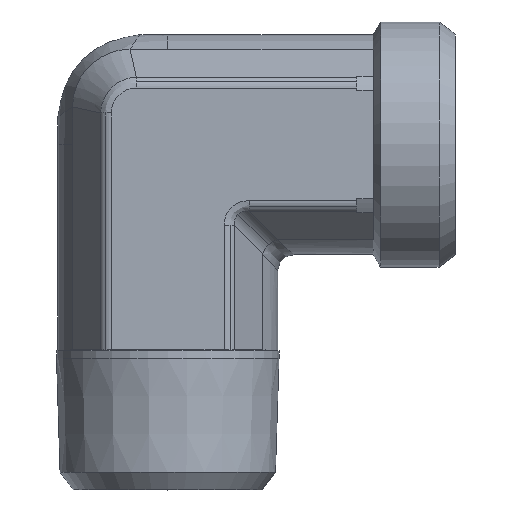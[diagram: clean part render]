
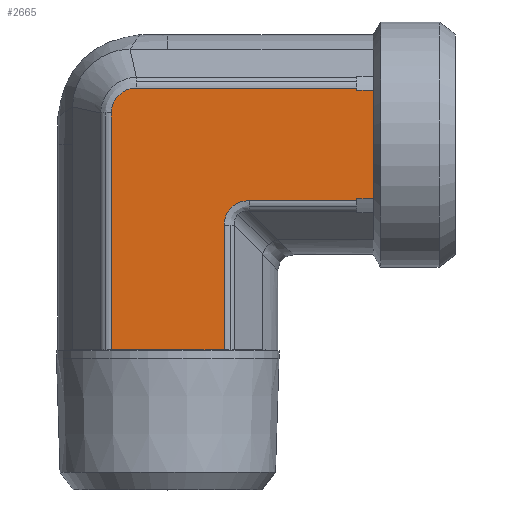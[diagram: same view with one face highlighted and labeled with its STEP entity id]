
A CAD part, top view. The second image highlights one B-rep face of the part: STEP entity #2665.
In plain terms, the highlighted planar face has unit normal (0, 0, 1) as drawn and (0, -1, 0) by its records, which use the part's own axes.
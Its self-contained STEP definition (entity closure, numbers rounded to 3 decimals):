
#361=CARTESIAN_POINT('',(5.387,-13.375,6.856));
#362=VERTEX_POINT('',#361);
#370=CARTESIAN_POINT('',(20.5,-13.375,6.856));
#371=VERTEX_POINT('',#370);
#372=CARTESIAN_POINT('',(5.387,-13.375,6.856));
#373=DIRECTION('',(1.0,0.0,0.0));
#374=VECTOR('',#373,15.113);
#375=LINE('',#372,#374);
#376=EDGE_CURVE('',#362,#371,#375,.T.);
#485=CARTESIAN_POINT('',(-11.356,-13.375,-3.819));
#486=VERTEX_POINT('',#485);
#494=CARTESIAN_POINT('',(-11.356,-13.375,23.0));
#495=VERTEX_POINT('',#494);
#496=CARTESIAN_POINT('',(-11.356,-13.375,-3.819));
#497=DIRECTION('',(0.0,0.0,1.0));
#498=VECTOR('',#497,26.819);
#499=LINE('',#496,#498);
#500=EDGE_CURVE('',#486,#495,#499,.T.);
#711=CARTESIAN_POINT('',(20.5,-13.375,0.));
#712=VERTEX_POINT('',#711);
#2081=CARTESIAN_POINT('',(2.356,-13.375,23.0));
#2082=VERTEX_POINT('',#2081);
#2083=CARTESIAN_POINT('',(2.089,-13.375,23.0));
#2084=VERTEX_POINT('',#2083);
#2085=CARTESIAN_POINT('',(2.356,-13.375,23.0));
#2086=DIRECTION('',(-1.0,0.0,0.0));
#2087=VECTOR('',#2086,0.267);
#2088=LINE('',#2085,#2087);
#2089=EDGE_CURVE('',#2082,#2084,#2088,.T.);
#2140=CARTESIAN_POINT('',(-11.089,-13.375,23.0));
#2141=VERTEX_POINT('',#2140);
#2142=CARTESIAN_POINT('',(-11.089,-13.375,23.0));
#2143=DIRECTION('',(-1.0,0.0,0.0));
#2144=VECTOR('',#2143,0.267);
#2145=LINE('',#2142,#2144);
#2146=EDGE_CURVE('',#2141,#495,#2145,.T.);
#2245=CARTESIAN_POINT('',(2.089,-13.375,25.0));
#2246=VERTEX_POINT('',#2245);
#2247=CARTESIAN_POINT('',(2.089,-13.375,23.0));
#2248=DIRECTION('',(0.0,0.0,1.0));
#2249=VECTOR('',#2248,2.0);
#2250=LINE('',#2247,#2249);
#2251=EDGE_CURVE('',#2084,#2246,#2250,.T.);
#2286=CARTESIAN_POINT('',(-11.089,-13.375,25.0));
#2287=VERTEX_POINT('',#2286);
#2288=CARTESIAN_POINT('',(-11.089,-13.375,25.0));
#2289=DIRECTION('',(0.0,0.0,-1.0));
#2290=VECTOR('',#2289,2.0);
#2291=LINE('',#2288,#2290);
#2292=EDGE_CURVE('',#2287,#2141,#2291,.T.);
#2571=CARTESIAN_POINT('',(-4.5,-13.375,25.0));
#2572=VERTEX_POINT('',#2571);
#2573=CARTESIAN_POINT('',(-4.5,-13.375,25.0));
#2574=DIRECTION('',(-1.0,0.0,0.0));
#2575=VECTOR('',#2574,6.589);
#2576=LINE('',#2573,#2575);
#2577=EDGE_CURVE('',#2572,#2287,#2576,.T.);
#2595=CARTESIAN_POINT('',(-4.5,-13.375,-3.175));
#2596=DIRECTION('',(0.0,-1.0,0.0));
#2597=DIRECTION('',(0.0,0.0,-1.0));
#2598=AXIS2_PLACEMENT_3D('',#2595,#2596,#2597);
#2599=PLANE('',#2598);
#2600=ORIENTED_EDGE('',*,*,#2292,.T.);
#2601=ORIENTED_EDGE('',*,*,#2146,.T.);
#2602=ORIENTED_EDGE('',*,*,#500,.F.);
#2603=CARTESIAN_POINT('',(-8.319,-13.375,-6.856));
#2604=VERTEX_POINT('',#2603);
#2605=CARTESIAN_POINT('',(-11.356,-13.375,-3.819));
#2606=CARTESIAN_POINT('',(-11.356,-13.375,-4.016));
#2607=CARTESIAN_POINT('',(-11.336,-13.375,-4.216));
#2608=CARTESIAN_POINT('',(-11.235,-13.375,-4.725));
#2609=CARTESIAN_POINT('',(-11.123,-13.375,-5.025));
#2610=CARTESIAN_POINT('',(-10.717,-13.375,-5.748));
#2611=CARTESIAN_POINT('',(-10.355,-13.375,-6.127));
#2612=CARTESIAN_POINT('',(-9.441,-13.375,-6.697));
#2613=CARTESIAN_POINT('',(-8.88,-13.375,-6.856));
#2614=CARTESIAN_POINT('',(-8.319,-13.375,-6.856));
#2615=B_SPLINE_CURVE_WITH_KNOTS('',3,(#2605,#2606,#2607,#2608,#2609,#2610,#2611,#2612,#2613,#2614),.UNSPECIFIED.,.F.,.U.,(4,2,2,2,4),(-4.746,-4.152,-3.203,-1.685,0.0),.UNSPECIFIED.);
#2616=EDGE_CURVE('',#2604,#486,#2615,.F.);
#2617=ORIENTED_EDGE('',*,*,#2616,.F.);
#2618=CARTESIAN_POINT('',(20.5,-13.375,-6.856));
#2619=VERTEX_POINT('',#2618);
#2620=CARTESIAN_POINT('',(20.5,-13.375,-6.856));
#2621=DIRECTION('',(-1.0,0.0,0.0));
#2622=VECTOR('',#2621,28.819);
#2623=LINE('',#2620,#2622);
#2624=EDGE_CURVE('',#2619,#2604,#2623,.T.);
#2625=ORIENTED_EDGE('',*,*,#2624,.F.);
#2626=CARTESIAN_POINT('',(20.5,-13.375,-6.856));
#2627=DIRECTION('',(0.0,0.0,1.0));
#2628=VECTOR('',#2627,6.856);
#2629=LINE('',#2626,#2628);
#2630=EDGE_CURVE('',#2619,#712,#2629,.T.);
#2631=ORIENTED_EDGE('',*,*,#2630,.T.);
#2632=CARTESIAN_POINT('',(20.5,-13.375,0.));
#2633=DIRECTION('',(0.0,0.0,1.0));
#2634=VECTOR('',#2633,6.856);
#2635=LINE('',#2632,#2634);
#2636=EDGE_CURVE('',#712,#371,#2635,.T.);
#2637=ORIENTED_EDGE('',*,*,#2636,.T.);
#2638=ORIENTED_EDGE('',*,*,#376,.F.);
#2639=CARTESIAN_POINT('',(2.356,-13.375,9.887));
#2640=VERTEX_POINT('',#2639);
#2641=CARTESIAN_POINT('',(6.397,-13.375,10.897));
#2642=DIRECTION('',(0.,-1.0,0.));
#2643=DIRECTION('',(-0.707,0.,-0.707));
#2644=AXIS2_PLACEMENT_3D('',#2641,#2642,#2643);
#2645=ELLIPSE('',#2644,4.518,3.5);
#2646=EDGE_CURVE('',#2640,#362,#2645,.T.);
#2647=ORIENTED_EDGE('',*,*,#2646,.F.);
#2648=CARTESIAN_POINT('',(2.356,-13.375,23.0));
#2649=DIRECTION('',(0.0,0.0,-1.0));
#2650=VECTOR('',#2649,13.113);
#2651=LINE('',#2648,#2650);
#2652=EDGE_CURVE('',#2082,#2640,#2651,.T.);
#2653=ORIENTED_EDGE('',*,*,#2652,.F.);
#2654=ORIENTED_EDGE('',*,*,#2089,.T.);
#2655=ORIENTED_EDGE('',*,*,#2251,.T.);
#2656=CARTESIAN_POINT('',(2.089,-13.375,25.0));
#2657=DIRECTION('',(-1.0,0.0,0.0));
#2658=VECTOR('',#2657,6.589);
#2659=LINE('',#2656,#2658);
#2660=EDGE_CURVE('',#2246,#2572,#2659,.T.);
#2661=ORIENTED_EDGE('',*,*,#2660,.T.);
#2662=ORIENTED_EDGE('',*,*,#2577,.T.);
#2663=EDGE_LOOP('',(#2600,#2601,#2602,#2617,#2625,#2631,#2637,#2638,#2647,#2653,#2654,#2655,#2661,#2662));
#2664=FACE_OUTER_BOUND('',#2663,.T.);
#2665=ADVANCED_FACE('',(#2664),#2599,.T.);
